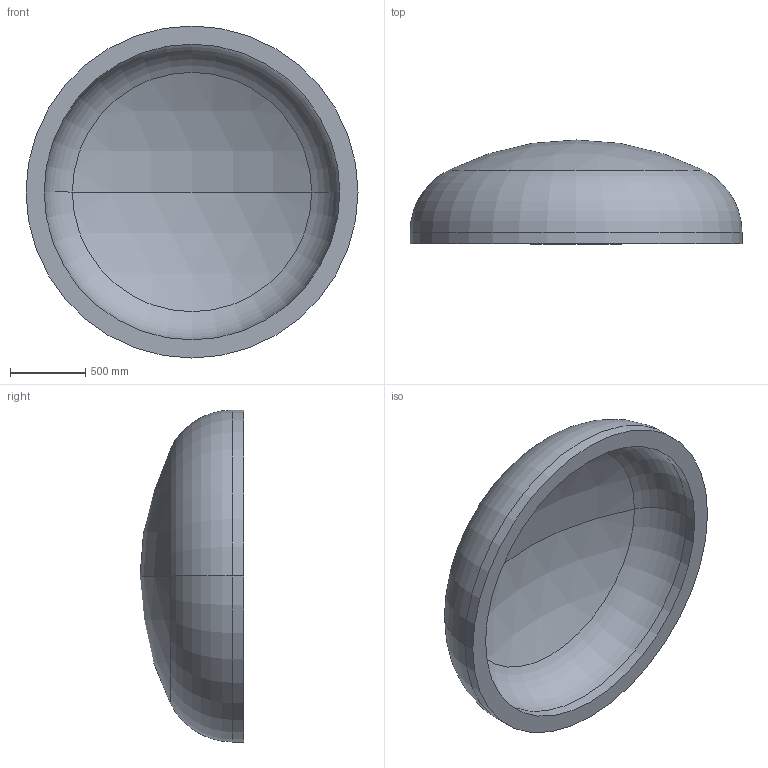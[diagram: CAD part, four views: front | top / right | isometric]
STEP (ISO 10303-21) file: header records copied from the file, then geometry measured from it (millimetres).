
FILE_DESCRIPTION (( 'STEP AP203' ), '1' );
FILE_NAME ('DIN 28013 Korbbogenform_-_Boden DIN 28013 - 2200 x 75 - I - s=120.step', '2016-07-01T14:59:57', ( '' ), ( '' ), 'SwSTEP 2.0', 'SolidWorks 2013', '' );
FILE_SCHEMA (( 'CONFIG_CONTROL_DESIGN' ));
Length unit declared in the file: millimetre
Products named in the file (1): DIN 28013 Korbbogenform_-_Boden DIN 28013 - 2200 x 75 - I - s=120
Bounding box: 2200 x 687.4 x 2200 mm (x, y, z)
Volume: 648399309.4 mm3; surface area: 11620953 mm2
Topology: 1 solids, 1 shells, 13 faces, 24 edges, 14 vertices
Faces by surface type: torus 4, cylinder 4, sphere 4, plane 1
Entity records: 407 total; most frequent: DIRECTION 72, CARTESIAN_POINT 52, ORIENTED_EDGE 48, AXIS2_PLACEMENT_3D 34, EDGE_CURVE 24, CIRCLE 20, EDGE_LOOP 14, VERTEX_POINT 14
